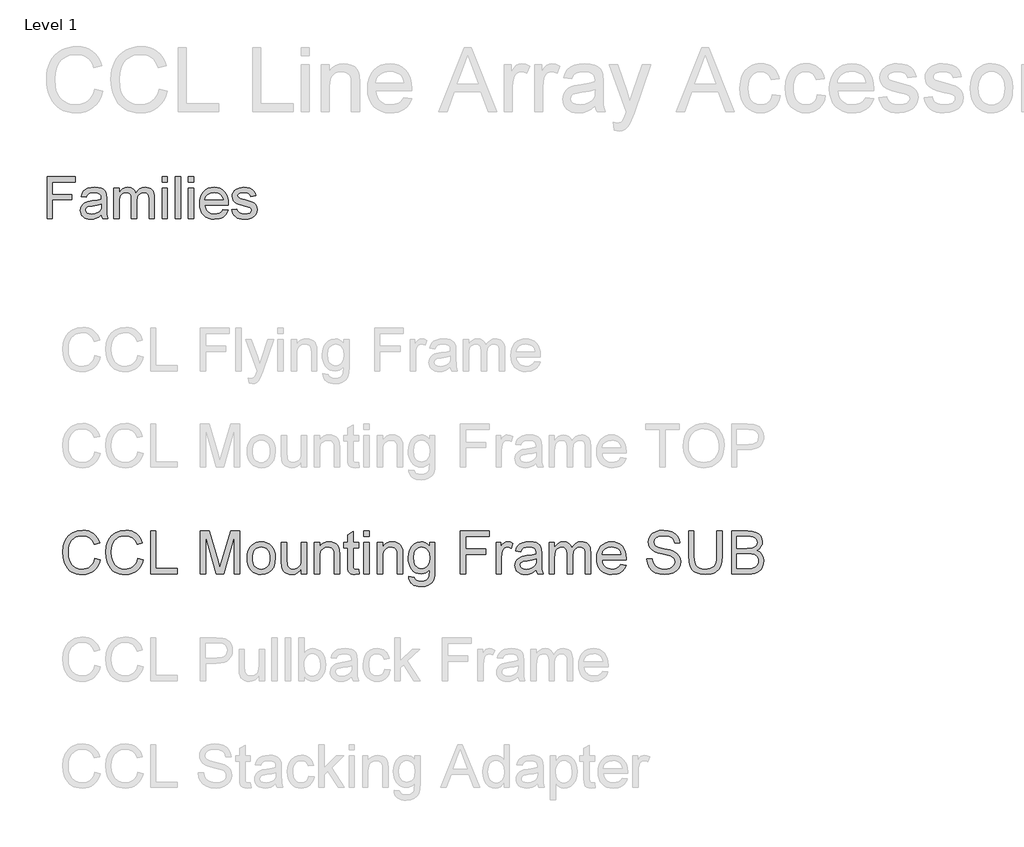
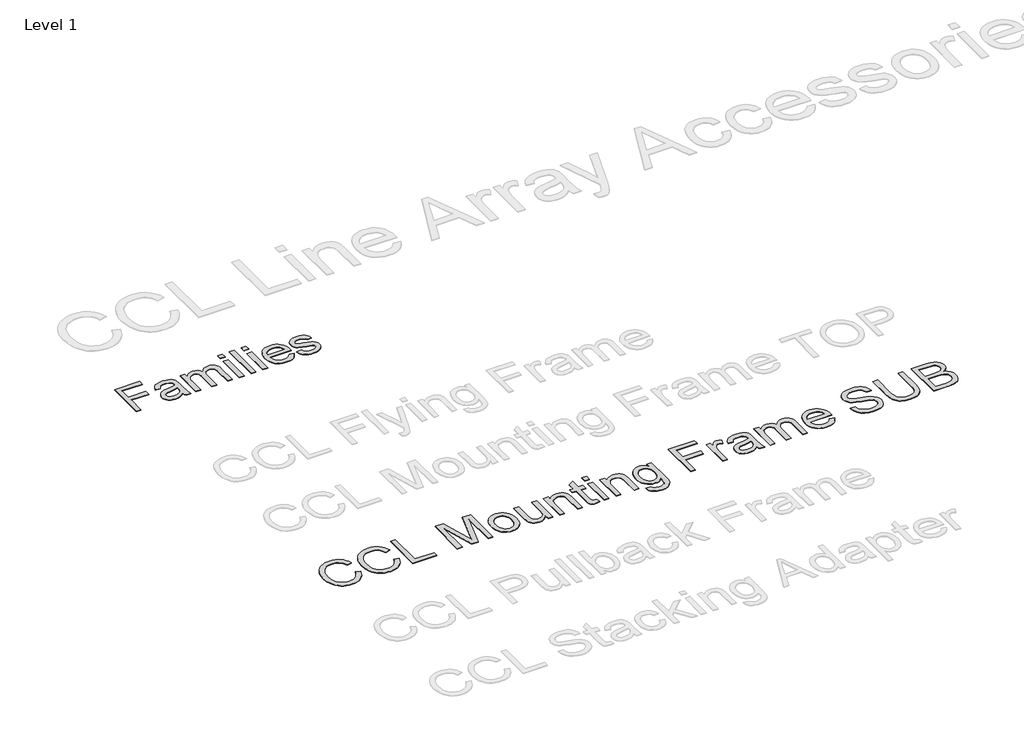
# One storey, part 4 of 31: 2 proxies.
"""IFC4 building model written with IfcOpenShell, lengths in millimetres."""

from ifc_helpers import new_model, si_unit, origin, origin_with_axes, place, context, project, spatial, polyline, outline, extrude, element, save

model = new_model("IFC4")

# Units and contexts
model_context = context("Model", 3, world=origin())
ifc_project = project(units=[si_unit("LENGTHUNIT", "METRE", prefix="MILLI")], contexts=[model_context])

# Site, building, storey
site = spatial("IfcSite", under=ifc_project)
building = spatial("IfcBuilding", under=site)
storey = spatial("IfcBuildingStorey", under=building, Name="Level 1", Elevation=0.0)

# Proxies
placement = place(None, origin())
element("IfcBuildingElementProxy", 1, Name="400mm Arial", ObjectType="400mm Arial", at=placement, inside=storey, context=model_context, shape_type="SweptSolid", body=[
    extrude(outline(polyline([(-21056.720891, -13671.3757633), (-21056.720891, -13279.6181875), (-20793.5087698, -13279.6181875), (-20793.5087698, -13328.5878845), (-21007.7511941, -13328.5878845), (-21007.7511941, -13444.8909148), (-20824.1148304, -13444.8909148), (-20824.1148304, -13493.8606118), (-21007.7511941, -13493.8606118), (-21007.7511941, -13671.3757633), (-21056.720891, -13671.3757633)])), origin_with_axes(), (0.0, 0.0, 1.0), 5.0),
    extrude(outline(polyline([(-20548.660285, -13634.6484906), (-20572.0571836, -13654.7098068), (-20596.1475009, -13667.8369375), (-20621.4811893, -13675.0819659), (-20648.6082016, -13677.4969754), (-20670.4120309, -13676.0443831), (-20689.5318522, -13671.6866061), (-20705.9676654, -13664.4236444), (-20719.7194706, -13654.2554981), (-20730.5780466, -13641.8277638), (-20738.3341723, -13627.7860379), (-20742.9878477, -13612.1303206), (-20744.5390729, -13594.8606118), (-20742.1957963, -13574.5601856), (-20735.1659668, -13556.1248163), (-20724.3223352, -13540.3435663), (-20710.5376524, -13528.0054981), (-20676.2493001, -13511.9373163), (-20633.879035, -13504.572733), (-20583.8094327, -13496.8255739), (-20548.9472168, -13487.7393996), (-20548.660285, -13476.8359906), (-20552.0317338, -13454.9813504), (-20562.1460804, -13440.6825815), (-20584.7658721, -13430.0661042), (-20616.2805501, -13426.5272784), (-20645.4519516, -13428.8825104), (-20665.8241107, -13435.9482065), (-20679.7163929, -13449.0155597), (-20689.4481638, -13469.3757633), (-20738.4178607, -13463.2545512), (-20729.9175056, -13436.4742481), (-20717.2327282, -13415.4325815), (-20699.1799346, -13399.3404887), (-20674.5755312, -13387.4089072), (-20644.4835568, -13380.0204129), (-20609.9680501, -13377.5575815), (-20576.8632916, -13379.7334811), (-20550.6209857, -13386.26118), (-20530.8346458, -13396.0766392), (-20517.097785, -13408.1158201), (-20507.9876997, -13423.0004082), (-20502.0816865, -13441.352089), (-20499.690588, -13484.2005739), (-20499.690588, -13545.1257633), (-20497.2038456, -13630.2010474), (-20487.4481638, -13671.3757633), (-20536.4178607, -13671.3757633), (-20544.2606638, -13654.3511421), (-20548.660285, -13634.6484906)]), holes=[polyline([(-20548.660285, -13536.7090966), (-20581.5618001, -13544.8627425), (-20627.6621789, -13551.7251951), (-20669.7933342, -13559.6636421), (-20680.7565208, -13565.0914356), (-20688.8743001, -13572.5755739), (-20693.8956069, -13581.5421932), (-20695.5693759, -13591.41743), (-20691.9229507, -13605.9792197), (-20680.9836751, -13617.9108012), (-20662.990659, -13625.8731591), (-20638.1830122, -13628.5272784), (-20611.8809289, -13625.5981828), (-20588.6394516, -13616.8108959), (-20569.7975956, -13603.8630976), (-20556.6943759, -13588.4524678), (-20550.8840066, -13572.5755739), (-20548.9472168, -13550.5774678), (-20548.660285, -13536.7090966)])]), origin_with_axes(), (0.0, 0.0, 1.0), 5.0),
    extrude(outline(polyline([(-20432.3572547, -13671.3757633), (-20432.3572547, -13383.6787936), (-20383.3875577, -13383.6787936), (-20383.3875577, -13431.0225436), (-20368.658391, -13409.2755029), (-20349.720891, -13392.2389262), (-20327.2206543, -13381.2279176), (-20301.8032774, -13377.5575815), (-20274.5686657, -13381.2996506), (-20252.7379365, -13392.525858), (-20236.4306448, -13410.4949631), (-20225.7663456, -13434.4657254), (-20207.9167954, -13409.5684124), (-20187.5565918, -13391.7846175), (-20164.6857348, -13381.1143405), (-20139.3042244, -13377.5575815), (-20119.7002057, -13379.0370737), (-20102.4932632, -13383.4755502), (-20087.683397, -13390.8730112), (-20075.2706069, -13401.2294565), (-20065.4581365, -13414.6644411), (-20058.4492291, -13431.2975199), (-20054.2438846, -13451.128693), (-20052.8421032, -13474.1579603), (-20052.8421032, -13671.3757633), (-20101.8118001, -13671.3757633), (-20101.8118001, -13495.1996269), (-20106.3548872, -13454.3118428), (-20112.7391202, -13443.0378135), (-20122.8056448, -13434.1787936), (-20135.7534431, -13428.4401572), (-20150.7814971, -13426.5272784), (-20177.3107348, -13431.4290303), (-20198.9382206, -13446.134286), (-20207.3279874, -13457.4142931), (-20213.320678, -13471.6473068), (-20218.1148304, -13508.9723542), (-20218.1148304, -13671.3757633), (-20267.0845274, -13671.3757633), (-20267.0845274, -13489.7479224), (-20269.9179791, -13462.0590019), (-20278.4183342, -13442.3085284), (-20293.3746552, -13430.4725909), (-20315.5760047, -13426.5272784), (-20334.4417717, -13429.1574868), (-20351.8250577, -13437.0481118), (-20366.1716486, -13450.0078656), (-20375.9273304, -13467.8454603), (-20381.5225009, -13492.5933296), (-20383.3875577, -13526.2839072), (-20383.3875577, -13671.3757633), (-20432.3572547, -13671.3757633)])), origin_with_axes(), (0.0, 0.0, 1.0), 5.0),
    extrude(outline(polyline([(-19979.3875577, -13328.5878845), (-19979.3875577, -13279.6181875), (-19930.4178607, -13279.6181875), (-19930.4178607, -13328.5878845), (-19979.3875577, -13328.5878845)])), origin_with_axes(), (0.0, 0.0, 1.0), 5.0),
    extrude(outline(polyline([(-19979.3875577, -13671.3757633), (-19979.3875577, -13383.6787936), (-19930.4178607, -13383.6787936), (-19930.4178607, -13671.3757633), (-19979.3875577, -13671.3757633)])), origin_with_axes(), (0.0, 0.0, 1.0), 5.0),
    extrude(outline(polyline([(-19856.9633153, -13671.3757633), (-19856.9633153, -13279.6181875), (-19807.9936183, -13279.6181875), (-19807.9936183, -13671.3757633), (-19856.9633153, -13671.3757633)])), origin_with_axes(), (0.0, 0.0, 1.0), 5.0),
    extrude(outline(polyline([(-19734.5390729, -13328.5878845), (-19734.5390729, -13279.6181875), (-19685.5693759, -13279.6181875), (-19685.5693759, -13328.5878845), (-19734.5390729, -13328.5878845)])), origin_with_axes(), (0.0, 0.0, 1.0), 5.0),
    extrude(outline(polyline([(-19734.5390729, -13671.3757633), (-19734.5390729, -13383.6787936), (-19685.5693759, -13383.6787936), (-19685.5693759, -13671.3757633), (-19734.5390729, -13671.3757633)])), origin_with_axes(), (0.0, 0.0, 1.0), 5.0),
    extrude(outline(polyline([(-19410.6886941, -13585.6787936), (-19362.6754365, -13591.8000057), (-19370.0370309, -13611.0304153), (-19379.975034, -13627.9773258), (-19392.4894457, -13642.6407372), (-19407.580266, -13655.0206496), (-19425.0920736, -13664.8540422), (-19444.8694469, -13671.877894), (-19491.220891, -13677.4969754), (-19521.605775, -13675.0729993), (-19548.6789876, -13667.801071), (-19572.4405288, -13655.6811906), (-19592.8903986, -13638.713358), (-19609.3351784, -13617.3698151), (-19621.0814497, -13592.122804), (-19628.1292125, -13562.9723246), (-19630.4784668, -13529.9183769), (-19628.1053015, -13495.7436018), (-19620.9858058, -13465.6217387), (-19609.1199796, -13439.5527874), (-19592.5078229, -13417.5367481), (-19572.1117528, -13400.0458627), (-19548.8941865, -13387.5523731), (-19522.855124, -13380.0562794), (-19493.9945653, -13377.5575815), (-19466.0635461, -13380.0503016), (-19440.8045795, -13387.5284621), (-19418.2176654, -13399.992063), (-19398.3028039, -13417.4411042), (-19382.0463231, -13439.4093215), (-19370.4345511, -13465.4304508), (-19363.4674879, -13495.504492), (-19361.1451335, -13529.6314451), (-19361.4320653, -13542.8303087), (-19581.5087698, -13542.8303087), (-19578.6723292, -13562.3715611), (-19573.0323257, -13579.4858485), (-19564.5887592, -13594.173171), (-19553.3416297, -13606.4335284), (-19524.9234242, -13623.0038409), (-19490.2644516, -13628.5272784), (-19464.2014782, -13625.9688031), (-19442.2511941, -13618.2933769), (-19424.4135994, -13605.0227803), (-19410.6886941, -13585.6787936)]), holes=[polyline([(-19581.5087698, -13493.8606118), (-19410.1148304, -13493.8606118), (-19416.7381732, -13467.9889262), (-19429.721838, -13449.4818239), (-19443.076123, -13439.4392103), (-19458.2715539, -13432.2659148), (-19494.1858532, -13426.5272784), (-19527.1949677, -13431.106232), (-19554.4893569, -13444.8430928), (-19573.4627234, -13466.2553798), (-19581.5087698, -13493.8606118)])]), origin_with_axes(), (0.0, 0.0, 1.0), 5.0),
    extrude(outline(polyline([(-19330.5390729, -13585.6787936), (-19281.5693759, -13579.5575815), (-19273.8461278, -13600.5036042), (-19258.9017622, -13615.9022784), (-19236.6406354, -13625.3710284), (-19206.9671032, -13628.5272784), (-19177.6522357, -13625.6340493), (-19157.0409668, -13616.9543618), (-19144.8463645, -13604.3771837), (-19140.7814971, -13589.791483), (-19144.8702755, -13577.3099489), (-19157.1366107, -13567.7933769), (-19207.5409668, -13553.8293618), (-19281.2824441, -13529.870555), (-19299.9449677, -13517.8313741), (-19313.4666297, -13501.8947027), (-19321.680053, -13483.0767576), (-19324.4178607, -13462.3937557), (-19322.2180501, -13443.4203892), (-19315.6186183, -13425.9055928), (-19305.2173399, -13410.5427851), (-19291.6119895, -13398.0253845), (-19260.4798872, -13383.5353277), (-19218.3487319, -13377.5575815), (-19186.4753891, -13379.9606354), (-19158.7625577, -13387.1697974), (-19136.4775198, -13398.4796932), (-19120.8875577, -13413.1849489), (-19110.5580122, -13432.3735142), (-19104.0542244, -13457.133339), (-19153.0239213, -13463.2545512), (-19159.2049109, -13447.8439214), (-19171.4353797, -13436.2351383), (-19189.8348825, -13428.9542434), (-19214.5229744, -13426.5272784), (-19242.6422925, -13428.846644), (-19261.3885047, -13435.8047406), (-19271.933249, -13445.8473542), (-19275.4481638, -13457.4202709), (-19269.6138835, -13471.6712178), (-19251.345891, -13482.478983), (-19209.1669138, -13492.9041724), (-19137.2904933, -13515.9543618), (-19118.3051713, -13526.9773258), (-19103.9107585, -13542.0651572), (-19094.8365397, -13561.2656781), (-19091.8118001, -13584.6267103), (-19095.3625814, -13608.776805), (-19106.0149251, -13631.4922406), (-19123.3623446, -13650.9916487), (-19146.9983532, -13665.493661), (-19175.5480691, -13674.4961468), (-19207.6366107, -13677.4969754), (-19233.9924938, -13676.0503608), (-19257.0127944, -13671.7105171), (-19276.6975127, -13664.4774442), (-19293.0466486, -13654.3511421), (-19306.4009336, -13641.3794328), (-19317.1010994, -13625.6101383), (-19325.1471458, -13607.0432585), (-19330.5390729, -13585.6787936)])), origin_with_axes(), (0.0, 0.0, 1.0), 5.0),
])
element("IfcBuildingElementProxy", 2, Name="400mm Arial", ObjectType="400mm Arial", at=placement, inside=storey, context=model_context, shape_type="SweptSolid", body=[
    extrude(outline(polyline([(-20609.9461568, -16854.6815806), (-20559.7180017, -16867.6310268), (-20569.656947, -16898.8672739), (-20582.8945674, -16926.1610523), (-20599.4308631, -16949.5123619), (-20619.265834, -16968.9212029), (-20641.9518904, -16984.1791086), (-20667.0414425, -16995.0776127), (-20694.5344902, -17001.6167152), (-20724.4310337, -17003.796416), (-20755.0602755, -17002.1470784), (-20782.691279, -16997.1990655), (-20807.3240443, -16988.9523775), (-20828.9585713, -16977.4070142), (-20847.8922313, -16962.734654), (-20864.4223956, -16945.106975), (-20878.5490642, -16924.5239774), (-20890.2722371, -16900.9856611), (-20906.0543747, -16849.1142998), (-20911.3150873, -16793.5641185), (-20905.3676617, -16734.9727794), (-20897.9333797, -16708.6753481), (-20887.5253849, -16684.3767423), (-20874.3766693, -16662.4785666), (-20858.7202247, -16643.3824253), (-20840.5560512, -16627.0883186), (-20819.8841487, -16613.5962464), (-20797.4065588, -16603.0165734), (-20773.8253229, -16595.4596641), (-20723.3519132, -16589.4141366), (-20694.623395, -16591.3700426), (-20668.2799785, -16597.2377604), (-20644.3216636, -16607.0172901), (-20622.7484502, -16620.7086317), (-20603.9159578, -16637.9500345), (-20588.1798054, -16658.379748), (-20575.5399932, -16681.9977721), (-20565.9965211, -16708.8041068), (-20616.2246762, -16720.7725344), (-20633.6377573, -16684.1437504), (-20657.4274596, -16659.0174101), (-20687.8880888, -16644.4860713), (-20725.3139505, -16639.6422917), (-20768.4542458, -16645.0133688), (-20787.1365198, -16651.7272152), (-20803.8935447, -16661.1266002), (-20830.7857185, -16686.2897287), (-20848.2846387, -16718.8104971), (-20857.8863588, -16755.5741711), (-20861.0869322, -16793.4660166), (-20857.2977476, -16839.8681989), (-20845.930194, -16879.9918619), (-20826.5550756, -16912.3041638), (-20798.7431967, -16935.272263), (-20765.4008252, -16948.9942614), (-20729.4342288, -16953.5682609), (-20707.5973667, -16952.0108938), (-20687.5079441, -16947.3387925), (-20669.165961, -16939.5519569), (-20652.5714173, -16928.6503871), (-20638.1167206, -16914.683134), (-20626.1942783, -16897.6992486), (-20616.8040903, -16877.6987308), (-20609.9461568, -16854.6815806)])), origin_with_axes(), (0.0, 0.0, 1.0), 5.0),
    extrude(outline(polyline([(-20208.1209162, -16854.6815806), (-20157.8927611, -16867.6310268), (-20167.8317064, -16898.8672739), (-20181.0693268, -16926.1610523), (-20197.6056225, -16949.5123619), (-20217.4405934, -16968.9212029), (-20240.1266498, -16984.1791086), (-20265.2162019, -16995.0776127), (-20292.7092496, -17001.6167152), (-20322.6057931, -17003.796416), (-20353.2350349, -17002.1470784), (-20380.8660384, -16997.1990655), (-20405.4988037, -16988.9523775), (-20427.1333307, -16977.4070142), (-20446.0669907, -16962.734654), (-20462.597155, -16945.106975), (-20476.7238236, -16924.5239774), (-20488.4469965, -16900.9856611), (-20504.2291341, -16849.1142998), (-20509.4898467, -16793.5641185), (-20503.5424211, -16734.9727794), (-20496.1081391, -16708.6753481), (-20485.7001443, -16684.3767423), (-20472.5514287, -16662.4785666), (-20456.8949841, -16643.3824253), (-20438.7308106, -16627.0883186), (-20418.0589081, -16613.5962464), (-20395.5813182, -16603.0165734), (-20372.0000823, -16595.4596641), (-20321.5266726, -16589.4141366), (-20292.7981544, -16591.3700426), (-20266.4547379, -16597.2377604), (-20242.496423, -16607.0172901), (-20220.9232096, -16620.7086317), (-20202.0907172, -16637.9500345), (-20186.3545648, -16658.379748), (-20173.7147526, -16681.9977721), (-20164.1712805, -16708.8041068), (-20214.3994356, -16720.7725344), (-20231.8125167, -16684.1437504), (-20255.602219, -16659.0174101), (-20286.0628482, -16644.4860713), (-20323.4887099, -16639.6422917), (-20366.6290052, -16645.0133688), (-20385.3112792, -16651.7272152), (-20402.0683041, -16661.1266002), (-20428.9604779, -16686.2897287), (-20446.4593981, -16718.8104971), (-20456.0611182, -16755.5741711), (-20459.2616916, -16793.4660166), (-20455.472507, -16839.8681989), (-20444.1049534, -16879.9918619), (-20424.729835, -16912.3041638), (-20396.9179561, -16935.272263), (-20363.5755846, -16948.9942614), (-20327.6089882, -16953.5682609), (-20305.7721261, -16952.0108938), (-20285.6827035, -16947.3387925), (-20267.3407204, -16939.5519569), (-20250.7461767, -16928.6503871), (-20236.29148, -16914.683134), (-20224.3690377, -16897.6992486), (-20214.9788497, -16877.6987308), (-20208.1209162, -16854.6815806)])), origin_with_axes(), (0.0, 0.0, 1.0), 5.0),
    extrude(outline(polyline([(-20088.8290479, -16997.5178966), (-20088.8290479, -16595.692656), (-20038.6008928, -16595.692656), (-20038.6008928, -16947.2897415), (-19837.6882725, -16947.2897415), (-19837.6882725, -16997.5178966), (-20088.8290479, -16997.5178966)])), origin_with_axes(), (0.0, 0.0, 1.0), 5.0),
    extrude(outline(polyline([(-19624.2186135, -16997.5178966), (-19624.2186135, -16595.692656), (-19538.0851757, -16595.692656), (-19455.6796087, -16878.9127414), (-19439.0022916, -16938.0681662), (-19421.0496503, -16874.0076481), (-19340.2137132, -16595.692656), (-19253.7859698, -16595.692656), (-19253.7859698, -16997.5178966), (-19304.0141249, -16997.5178966), (-19304.0141249, -16645.9208111), (-19404.9609443, -16997.5178966), (-19472.945537, -16997.5178966), (-19573.9904584, -16645.9208111), (-19573.9904584, -16997.5178966), (-19624.2186135, -16997.5178966)])), origin_with_axes(), (0.0, 0.0, 1.0), 5.0),
    extrude(outline(polyline([(-19184.7222566, -16849.9726911), (-19182.0060612, -16811.7558831), (-19173.857475, -16778.8243132), (-19160.276498, -16751.1779813), (-19141.2631302, -16728.8168873), (-19122.1210037, -16714.5246718), (-19100.9923145, -16704.3159465), (-19077.8770624, -16698.1907112), (-19052.7752476, -16696.1489662), (-19025.0645363, -16698.6352353), (-19000.0087068, -16706.0940428), (-18977.607759, -16718.5253885), (-18957.8616929, -16735.9292726), (-18941.7453958, -16757.7170837), (-18930.233755, -16783.3002108), (-18923.3267706, -16812.6786538), (-18921.0244424, -16845.8524127), (-18925.0956698, -16896.5956026), (-18937.3093521, -16935.2232121), (-18957.3098699, -16964.1509996), (-18984.741604, -16985.7947237), (-19017.323686, -16999.2959929), (-19052.7752476, -17003.796416), (-19080.8906291, -17001.3193439), (-19106.1794506, -16993.8881276), (-19128.6417121, -16981.5027671), (-19148.2774136, -16964.1632624), (-19164.2220324, -16942.1639191), (-19175.6110458, -16915.7990427), (-19182.4444539, -16885.0686334), (-19184.7222566, -16849.9726911)]), holes=[polyline([(-19134.4941015, -16849.8745892), (-19133.0409676, -16874.2375743), (-19128.681566, -16895.3325411), (-19121.4158966, -16913.1594894), (-19111.2439594, -16927.7184194), (-19098.8708616, -16939.0277251), (-19085.0017104, -16947.1058005), (-19069.6365057, -16951.9526458), (-19052.7752476, -16953.5682609), (-19035.9998286, -16951.9434488), (-19020.6959376, -16947.0690123), (-19006.8635746, -16938.9449516), (-18994.5027396, -16927.5712666), (-18984.3308024, -16912.8682495), (-18977.065133, -16894.7561926), (-18972.7057314, -16873.2350959), (-18971.2525975, -16848.3049594), (-18972.7149284, -16824.7145264), (-18977.1019212, -16804.1713827), (-18984.4135759, -16786.6755281), (-18994.6498924, -16772.2269628), (-19007.0567127, -16760.9176571), (-19020.8798786, -16752.8395816), (-19036.1193903, -16747.9927363), (-19052.7752476, -16746.3771212), (-19069.6365057, -16747.986605), (-19085.0017104, -16752.8150561), (-19098.8708616, -16760.8624748), (-19111.2439594, -16772.1288609), (-19121.4158966, -16786.6448713), (-19128.681566, -16804.4411628), (-19133.0409676, -16825.5177354), (-19134.4941015, -16849.8745892)])]), origin_with_axes(), (0.0, 0.0, 1.0), 5.0),
    extrude(outline(polyline([(-18676.1621864, -16997.5178966), (-18676.1621864, -16946.7992322), (-18694.335557, -16971.7355001), (-18715.5010344, -16989.54712), (-18739.6586188, -17000.234092), (-18766.80831, -17003.796416), (-18791.2724627, -17001.2948184), (-18814.0443582, -16993.7900257), (-18833.1496965, -16982.5083112), (-18846.6141775, -16968.6759482), (-18855.6763373, -16951.8760037), (-18861.574712, -16931.6915449), (-18864.517768, -16884.995057), (-18864.517768, -16702.4274855), (-18814.2896129, -16702.4274855), (-18814.2896129, -16861.3525075), (-18811.2484551, -16912.5616812), (-18803.9276033, -16929.6436685), (-18791.3828273, -16942.6299029), (-18774.4479928, -16950.8336714), (-18753.9569657, -16953.5682609), (-18732.2887162, -16950.7723578), (-18712.0184182, -16942.3846483), (-18695.3043129, -16929.1776846), (-18684.3046412, -16911.9240191), (-18678.1978001, -16888.2937322), (-18676.1621864, -16855.9569049), (-18676.1621864, -16702.4274855), (-18625.9340313, -16702.4274855), (-18625.9340313, -16997.5178966), (-18676.1621864, -16997.5178966)])), origin_with_axes(), (0.0, 0.0, 1.0), 5.0),
    extrude(outline(polyline([(-18556.8703181, -16997.5178966), (-18556.8703181, -16702.4274855), (-18506.642163, -16702.4274855), (-18506.642163, -16743.630269), (-18489.1922937, -16722.857199), (-18468.2352827, -16708.0192919), (-18443.7711301, -16699.1165476), (-18415.7998357, -16696.1489662), (-18391.0413774, -16698.5401991), (-18368.3675838, -16705.713898), (-18349.4584492, -16716.7748834), (-18335.9939682, -16730.8279756), (-18326.858232, -16747.8363865), (-18320.9353319, -16767.7633279), (-18318.2865815, -16816.3237513), (-18318.2865815, -16997.5178966), (-18368.5147366, -16997.5178966), (-18368.5147366, -16823.09278), (-18369.9617391, -16797.1203111), (-18374.3027466, -16778.6526349), (-18382.3103114, -16765.4211459), (-18394.7569856, -16755.1572382), (-18410.7108014, -16748.5721505), (-18429.2397913, -16746.3771212), (-18458.6580881, -16751.30674), (-18483.7353775, -16766.0955962), (-18493.7570962, -16778.168257), (-18500.9154667, -16794.6677645), (-18505.2104889, -16815.5941186), (-18506.642163, -16840.9473195), (-18506.642163, -16997.5178966), (-18556.8703181, -16997.5178966)])), origin_with_axes(), (0.0, 0.0, 1.0), 5.0),
    extrude(outline(polyline([(-18142.4880388, -16955.6284001), (-18136.2095194, -16998.9894246), (-18173.7825338, -17003.796416), (-18197.8910672, -17001.7117514), (-18215.8682341, -16995.4577574), (-18228.5724256, -16985.8192492), (-18236.8620332, -16973.5810415), (-18241.42377, -16952.5627168), (-18242.9443489, -16916.5838577), (-18242.9443489, -16752.6556406), (-18280.6154652, -16752.6556406), (-18280.6154652, -16702.4274855), (-18242.9443489, -16702.4274855), (-18242.9443489, -16630.715022), (-18192.7161938, -16601.1863605), (-18192.7161938, -16702.4274855), (-18142.4880388, -16702.4274855), (-18142.4880388, -16752.6556406), (-18192.7161938, -16752.6556406), (-18192.7161938, -16915.1123297), (-18190.0674435, -16941.0112221), (-18181.4835302, -16950.1837466), (-18164.3647547, -16953.5682609), (-18142.4880388, -16955.6284001)])), origin_with_axes(), (0.0, 0.0, 1.0), 5.0),
    extrude(outline(polyline([(-18092.2598837, -16997.5178966), (-18092.2598837, -16702.4274855), (-18042.0317286, -16702.4274855), (-18042.0317286, -16997.5178966), (-18092.2598837, -16997.5178966)])), origin_with_axes(), (0.0, 0.0, 1.0), 5.0),
    extrude(outline(polyline([(-18092.2598837, -16645.9208111), (-18092.2598837, -16595.692656), (-18042.0317286, -16595.692656), (-18042.0317286, -16645.9208111), (-18092.2598837, -16645.9208111)])), origin_with_axes(), (0.0, 0.0, 1.0), 5.0),
    extrude(outline(polyline([(-17966.689496, -16997.5178966), (-17966.689496, -16702.4274855), (-17916.4613409, -16702.4274855), (-17916.4613409, -16743.630269), (-17899.0114716, -16722.857199), (-17878.0544606, -16708.0192919), (-17853.5903079, -16699.1165476), (-17825.6190136, -16696.1489662), (-17800.8605553, -16698.5401991), (-17778.1867617, -16705.713898), (-17759.2776271, -16716.7748834), (-17745.8131461, -16730.8279756), (-17736.6774099, -16747.8363865), (-17730.7545097, -16767.7633279), (-17728.1057594, -16816.3237513), (-17728.1057594, -16997.5178966), (-17778.3339145, -16997.5178966), (-17778.3339145, -16823.09278), (-17779.780917, -16797.1203111), (-17784.1219245, -16778.6526349), (-17792.1294893, -16765.4211459), (-17804.5761634, -16755.1572382), (-17820.5299793, -16748.5721505), (-17839.0589691, -16746.3771212), (-17868.477266, -16751.30674), (-17893.5545553, -16766.0955962), (-17903.576274, -16778.168257), (-17910.7346445, -16794.6677645), (-17915.0296668, -16815.5941186), (-17916.4613409, -16840.9473195), (-17916.4613409, -16997.5178966), (-17966.689496, -16997.5178966)])), origin_with_axes(), (0.0, 0.0, 1.0), 5.0),
    extrude(outline(polyline([(-17671.5990849, -17022.6319741), (-17621.3709299, -17028.9104935), (-17615.8281745, -17044.606792), (-17605.0860202, -17055.3979972), (-17583.9695937, -17063.7857067), (-17556.3293931, -17066.5816098), (-17526.8497826, -17063.4178247), (-17504.9240156, -17053.9264692), (-17489.7182265, -17038.7206801), (-17480.3985493, -17018.4135939), (-17476.964984, -16959.8467803), (-17493.6790893, -16976.3278937), (-17512.3307065, -16988.1001175), (-17532.9198355, -16995.1634518), (-17555.4464763, -16997.5178966), (-17582.9855093, -16994.7771757), (-17607.2319985, -16986.5550132), (-17628.1859438, -16972.8514088), (-17645.8473453, -16953.6663628), (-17659.8605836, -16930.6492126), (-17669.8700395, -16905.4492959), (-17675.8757131, -16878.0666128), (-17677.8776043, -16848.5011631), (-17674.2846235, -16807.9483045), (-17663.505681, -16770.6573329), (-17645.9209217, -16739.0562695), (-17621.9104901, -16715.5731355), (-17592.2959895, -16701.0050085), (-17557.8990229, -16696.1489662), (-17534.4097576, -16698.8958184), (-17513.0909959, -16707.1363751), (-17493.9427381, -16720.8706362), (-17476.964984, -16740.0986019), (-17476.964984, -16702.4274855), (-17426.7368289, -16702.4274855), (-17426.7368289, -16957.1980299), (-17430.1703942, -17016.022361), (-17440.4710901, -17054.7603351), (-17458.215265, -17080.4507611), (-17483.9792674, -17100.1324478), (-17517.1990115, -17112.6404356), (-17557.3104118, -17116.8097649), (-17581.9186516, -17115.3413026), (-17604.0436879, -17110.9359157), (-17623.6855207, -17103.5936042), (-17640.8441501, -17093.3143682), (-17654.7041043, -17080.0859447), (-17664.4499115, -17063.8960713), (-17670.0815717, -17044.7447477), (-17671.5990849, -17022.6319741)]), holes=[polyline([(-17627.6494492, -16845.0675978), (-17622.2906348, -16891.1386863), (-17615.5921168, -16908.7755623), (-17606.2141916, -16922.8133261), (-17594.8129155, -16933.5217579), (-17582.0443446, -16941.1706377), (-17567.9084789, -16945.7599656), (-17552.4053185, -16947.2897415), (-17537.0554422, -16945.7691626), (-17522.9870216, -16941.2074259), (-17510.2000566, -16933.6045313), (-17498.6945472, -16922.9604789), (-17489.1878633, -16909.0606709), (-17482.3973748, -16891.6905093), (-17476.964984, -16846.5391258), (-17482.5567903, -16802.9941603), (-17489.5465482, -16785.7926113), (-17499.3322093, -16771.6383516), (-17511.0860391, -16760.5865633), (-17523.980303, -16752.6924288), (-17538.0150011, -16747.9559481), (-17553.1901334, -16746.3771212), (-17568.110814, -16747.9314227), (-17581.8726663, -16752.594327), (-17605.9198861, -16771.2459441), (-17615.4265699, -16785.185606), (-17622.2170584, -16802.135769), (-17627.6494492, -16845.0675978)])]), origin_with_axes(), (0.0, 0.0, 1.0), 5.0),
    extrude(outline(polyline([(-17188.1530923, -16997.5178966), (-17188.1530923, -16595.692656), (-16918.1767588, -16595.692656), (-16918.1767588, -16645.9208111), (-17137.9249373, -16645.9208111), (-17137.9249373, -16765.2126794), (-16949.5693557, -16765.2126794), (-16949.5693557, -16815.4408345), (-17137.9249373, -16815.4408345), (-17137.9249373, -16997.5178966), (-17188.1530923, -16997.5178966)])), origin_with_axes(), (0.0, 0.0, 1.0), 5.0),
    extrude(outline(polyline([(-16855.391565, -16997.5178966), (-16855.391565, -16702.4274855), (-16811.4419293, -16702.4274855), (-16811.4419293, -16746.0828156), (-16795.2060705, -16720.7725344), (-16780.2455361, -16705.8610508), (-16765.2359507, -16698.5769873), (-16748.8529392, -16696.1489662), (-16723.8369635, -16700.0239898), (-16698.4285804, -16711.6490609), (-16715.2039993, -16756.6778171), (-16732.8623351, -16748.9522952), (-16750.5206709, -16746.3771212), (-16765.5179935, -16748.8541933), (-16778.9211609, -16756.2854096), (-16789.7491543, -16768.1066844), (-16797.0209551, -16783.7539319), (-16803.1277962, -16811.8110654), (-16805.1634099, -16842.4188474), (-16805.1634099, -16997.5178966), (-16855.391565, -16997.5178966)])), origin_with_axes(), (0.0, 0.0, 1.0), 5.0),
    extrude(outline(polyline([(-16478.6804019, -16959.8467803), (-16502.6785707, -16980.4236466), (-16527.3879781, -16993.8881276), (-16553.3727097, -17001.3193439), (-16581.1968512, -17003.796416), (-16603.5610108, -17002.3064939), (-16623.1721869, -16997.8367277), (-16640.0303793, -16990.3871173), (-16654.1355881, -16979.9576627), (-16665.2732155, -16967.2105516), (-16673.2286637, -16952.8079715), (-16678.0019326, -16936.7499224), (-16679.5930222, -16919.0364043), (-16677.1895265, -16898.2142834), (-16669.9790394, -16879.3051488), (-16658.8567404, -16863.118341), (-16644.7178091, -16850.4632004), (-16628.1018056, -16840.8982685), (-16609.5482903, -16833.982087), (-16566.089164, -16826.4282434), (-16514.7328374, -16818.4819923), (-16478.9747075, -16809.1623151), (-16478.6804019, -16797.9787024), (-16482.1384927, -16775.5624262), (-16492.5127649, -16760.8961973), (-16515.7138561, -16750.0068903), (-16548.0384207, -16746.3771212), (-16577.9594897, -16748.7928797), (-16598.855187, -16756.040155), (-16613.1044829, -16769.4433223), (-16623.0863477, -16790.3267569), (-16673.3145028, -16784.0482375), (-16664.5956995, -16756.5797152), (-16651.5849396, -16734.9973049), (-16633.0682125, -16718.491666), (-16607.8315077, -16706.2534583), (-16576.9662083, -16698.6750892), (-16541.5636976, -16696.1489662), (-16507.6081895, -16698.3807836), (-16480.6914901, -16705.0762359), (-16460.3966667, -16715.1439398), (-16446.3067863, -16727.4925121), (-16436.9625836, -16742.7596149), (-16430.9047935, -16761.5829104), (-16428.4522468, -16805.5325461), (-16428.4522468, -16868.0234343), (-16425.9015983, -16955.2850436), (-16415.8952081, -16997.5178966), (-16466.1233631, -16997.5178966), (-16474.1677161, -16980.0557646), (-16478.6804019, -16959.8467803)]), holes=[polyline([(-16478.6804019, -16859.3904702), (-16512.4274436, -16867.7536542), (-16559.7125427, -16874.792463), (-16602.9264144, -16882.9349178), (-16614.1713407, -16888.5021987), (-16622.4977365, -16896.1786697), (-16627.6480845, -16905.3757195), (-16629.3648671, -16915.5047372), (-16625.6247335, -16930.4407462), (-16614.4043327, -16942.6789539), (-16595.9489192, -16950.8459342), (-16570.5037479, -16953.5682609), (-16543.5257349, -16950.5638913), (-16519.6869816, -16941.5507824), (-16500.3609141, -16928.2702424), (-16486.9209586, -16912.4635793), (-16480.9612703, -16896.1786697), (-16478.9747075, -16873.6152406), (-16478.6804019, -16859.3904702)])]), origin_with_axes(), (0.0, 0.0, 1.0), 5.0),
    extrude(outline(polyline([(-16359.3885336, -16997.5178966), (-16359.3885336, -16702.4274855), (-16309.1603785, -16702.4274855), (-16309.1603785, -16750.9879089), (-16294.0526913, -16728.6819973), (-16274.6285219, -16711.2076025), (-16251.5500581, -16699.9136252), (-16225.4794874, -16696.1489662), (-16197.5449812, -16699.9872016), (-16175.1532304, -16711.5019081), (-16158.4268624, -16729.9327961), (-16147.4885044, -16754.5195761), (-16129.1802437, -16728.9824342), (-16108.2968092, -16710.7416186), (-16084.8382006, -16699.7971293), (-16058.8044181, -16696.1489662), (-16038.6966014, -16697.6664794), (-16021.0474626, -16702.2190191), (-16005.8570019, -16709.8065852), (-15993.1252192, -16720.4291778), (-15983.0605809, -16734.2094242), (-15975.8715536, -16751.2699518), (-15971.5581372, -16771.6107604), (-15970.1203318, -16795.2318502), (-15970.1203318, -16997.5178966), (-16020.3484868, -16997.5178966), (-16020.3484868, -16816.8142606), (-16021.5134465, -16791.7614967), (-16025.0083254, -16774.8757131), (-16031.556625, -16763.3119557), (-16041.8818463, -16754.2252705), (-16055.1623863, -16748.3391585), (-16070.5766419, -16746.3771212), (-16097.7876468, -16751.4048418), (-16119.9709311, -16766.4880036), (-16128.5763041, -16778.0578924), (-16134.7229991, -16792.6566762), (-16139.6403551, -16830.9409292), (-16139.6403551, -16997.5178966), (-16189.8685102, -16997.5178966), (-16189.8685102, -16811.2224543), (-16192.774778, -16782.8219642), (-16201.4935813, -16762.563929), (-16216.8342605, -16750.4238232), (-16239.606156, -16746.3771212), (-16258.9567489, -16749.0749225), (-16276.7867629, -16757.1683264), (-16291.5020428, -16770.4611292), (-16301.508433, -16788.7571271), (-16307.2473921, -16814.1409847), (-16309.1603785, -16848.6973668), (-16309.1603785, -16997.5178966), (-16359.3885336, -16997.5178966)])), origin_with_axes(), (0.0, 0.0, 1.0), 5.0),
    extrude(outline(polyline([(-15688.1755707, -16909.6186252), (-15638.9284342, -16915.8971446), (-15646.4792122, -16935.6217509), (-15656.6726091, -16953.0041752), (-15669.5086251, -16968.0444174), (-15684.98726, -16980.7424776), (-15702.9490985, -16990.8285757), (-15723.2347248, -16998.0329314), (-15770.7773413, -17003.796416), (-15801.9430777, -17001.3101468), (-15829.7120369, -16993.8513394), (-15854.0842191, -16981.4199936), (-15875.0596242, -16964.0161096), (-15891.9270137, -16942.1240652), (-15903.975149, -16916.2282384), (-15911.2040302, -16886.3286292), (-15913.6136573, -16852.4252377), (-15911.1795048, -16817.3722149), (-15903.8770472, -16786.4762587), (-15891.7062845, -16759.737369), (-15874.6672168, -16737.1555459), (-15853.746994, -16719.2151673), (-15829.9327661, -16706.4006111), (-15803.2245333, -16698.7118774), (-15773.6222954, -16696.1489662), (-15744.973485, -16698.705746), (-15719.0653955, -16706.3760856), (-15695.8980269, -16719.159985), (-15675.4713791, -16737.057444), (-15658.7971277, -16759.5902162), (-15646.8869481, -16786.280055), (-15639.7408403, -16817.1269603), (-15637.3588044, -16852.1309321), (-15637.65311, -16865.6689895), (-15863.3855022, -16865.6689895), (-15860.4761688, -16885.7124269), (-15854.6912244, -16903.2665294), (-15846.0306691, -16918.3312971), (-15834.4945029, -16930.90673), (-15820.7203878, -16940.8211498), (-15805.3459861, -16947.9028782), (-15769.7963227, -16953.5682609), (-15743.0635643, -16950.944036), (-15720.5491862, -16943.0713613), (-15702.2531883, -16929.4597275), (-15688.1755707, -16909.6186252)]), holes=[polyline([(-15863.3855022, -16815.4408345), (-15687.5869595, -16815.4408345), (-15694.3805136, -16788.9042799), (-15707.6978419, -16769.9215689), (-15721.3953148, -16759.6208731), (-15736.9812487, -16752.2632332), (-15754.4556435, -16747.8486492), (-15773.8184991, -16746.3771212), (-15807.6759054, -16751.073748), (-15835.6717253, -16765.1636285), (-15855.1326828, -16787.1261836), (-15863.3855022, -16815.4408345)])]), origin_with_axes(), (0.0, 0.0, 1.0), 5.0),
    extrude(outline(polyline([(-15442.7247035, -16859.3904702), (-15392.4965484, -16859.3904702), (-15386.7330638, -16887.2636627), (-15376.3097406, -16909.6676762), (-15360.0493564, -16927.4486393), (-15336.7746889, -16941.4526805), (-15308.3251479, -16950.5393658), (-15276.5401435, -16953.5682609), (-15248.5565864, -16951.2751298), (-15224.0556455, -16944.3957365), (-15204.2022805, -16933.5064294), (-15190.1614511, -16919.1835571), (-15181.8105298, -16902.7392319), (-15179.0268893, -16885.4855663), (-15181.111554, -16868.6733592), (-15187.3655479, -16854.1420204), (-15200.0697395, -16841.7443971), (-15221.504997, -16831.3333367), (-15294.6399377, -16812.154422), (-15342.6485381, -16799.4624931), (-15373.3666847, -16787.383701), (-15398.3703976, -16770.4856547), (-15416.090047, -16750.0068903), (-15426.6482603, -16726.3888662), (-15430.1676647, -16700.0730408), (-15425.8143944, -16670.6547439), (-15412.7545836, -16643.2230098), (-15391.3315888, -16619.9728677), (-15361.8887664, -16603.0993468), (-15326.5475694, -16592.8354392), (-15287.4294506, -16589.4141366), (-15245.0494447, -16592.9948547), (-15207.9669396, -16603.737009), (-15177.5063104, -16621.4198702), (-15154.9919323, -16645.8227092), (-15140.7426364, -16675.4249471), (-15135.0772536, -16708.7060049), (-15185.3054087, -16708.7060049), (-15194.5269841, -16678.7358851), (-15202.8901681, -16666.8778221), (-15213.7549497, -16657.1044237), (-15243.798646, -16644.0078247), (-15285.4674133, -16639.6422917), (-15328.1171993, -16643.9587738), (-15344.420503, -16649.3543764), (-15357.3760806, -16656.90822), (-15374.2986524, -16675.9645074), (-15379.9395096, -16698.6015128), (-15375.9418586, -16717.9030548), (-15363.9489056, -16733.427675), (-15335.5974665, -16747.309089), (-15281.9357461, -16761.4848085), (-15226.5572431, -16774.9492895), (-15193.0554561, -16786.6969879), (-15164.4219741, -16804.9194094), (-15144.4459818, -16827.409262), (-15132.7105461, -16853.9212912), (-15128.7987343, -16884.2102421), (-15133.2991573, -16915.1736434), (-15146.8004266, -16944.2976346), (-15168.7507189, -16969.3626612), (-15198.5982115, -16988.1491685), (-15234.4912315, -16999.8846041), (-15274.5781062, -17003.796416), (-15323.7884544, -16999.5780358), (-15364.2922621, -16986.9228951), (-15396.5555131, -16965.7819432), (-15421.0441912, -16936.1061289), (-15436.7650152, -16899.9555915), (-15442.7247035, -16859.3904702)])), origin_with_axes(), (0.0, 0.0, 1.0), 5.0),
    extrude(outline(polyline([(-14789.7586875, -16595.692656), (-14739.5305324, -16595.692656), (-14739.5305324, -16827.5073639), (-14742.9395723, -16881.7944837), (-14753.1666917, -16923.598141), (-14761.3520661, -16940.5513697), (-14772.27203, -16955.8491293), (-14802.3157263, -16981.4782416), (-14821.4578528, -16991.2424429), (-14843.3713569, -16998.2168724), (-14895.5124984, -17003.796416), (-14946.5132057, -16998.9403737), (-14987.2867935, -16984.3722466), (-15003.8414832, -16973.5718444), (-15017.8455245, -16960.594807), (-15029.2989173, -16945.4411345), (-15038.2016616, -16928.1108269), (-15049.6427916, -16884.5413359), (-15053.4565017, -16827.5073639), (-15053.4565017, -16595.692656), (-15003.2283466, -16595.692656), (-15003.2283466, -16825.7415303), (-15000.7512745, -16870.8806511), (-14993.3200582, -16902.3100363), (-14979.8555771, -16924.0763876), (-14959.2787109, -16940.2264072), (-14932.4478507, -16950.2327975), (-14900.2213879, -16953.5682609), (-14872.5382678, -16951.9189233), (-14849.1348415, -16946.9709105), (-14830.0111091, -16938.7242224), (-14815.1670706, -16927.1788591), (-14804.050903, -16910.9430004), (-14796.1107833, -16888.624826), (-14791.3467115, -16860.224336), (-14789.7586875, -16825.7415303), (-14789.7586875, -16595.692656)])), origin_with_axes(), (0.0, 0.0, 1.0), 5.0),
    extrude(outline(polyline([(-14651.6312611, -16997.5178966), (-14651.6312611, -16595.692656), (-14498.2980455, -16595.692656), (-14456.1265061, -16598.6479747), (-14423.2010675, -16607.5139308), (-14397.9643626, -16622.5112535), (-14378.8590244, -16643.8606719), (-14366.8292831, -16668.9747494), (-14362.8193694, -16695.2660494), (-14366.191621, -16719.4604219), (-14376.3083759, -16742.207792), (-14393.2432104, -16762.1102079), (-14417.0697009, -16777.7697182), (-14388.6078972, -16792.6321508), (-14367.5773098, -16815.2446307), (-14354.5910754, -16844.1111046), (-14350.2623306, -16877.735519), (-14353.2176493, -16905.7558643), (-14362.0836054, -16931.7405959), (-14375.3150945, -16953.838041), (-14391.3670122, -16970.1965271), (-14411.0241735, -16982.0423273), (-14435.0713932, -16990.6017151), (-14464.2934864, -16995.7888512), (-14499.4752678, -16997.5178966), (-14651.6312611, -16997.5178966)]), holes=[polyline([(-14601.403106, -16758.93416), (-14509.6778618, -16758.93416), (-14456.1142433, -16754.6176779), (-14437.3645243, -16747.1741989), (-14423.8877806, -16736.0273744), (-14415.7575885, -16721.3488828), (-14413.0475244, -16703.3104023), (-14415.5736475, -16685.7992194), (-14423.1520166, -16670.5443793), (-14435.4392752, -16658.6372654), (-14452.0920669, -16651.1692609), (-14477.6476028, -16647.2329235), (-14516.6430943, -16645.9208111), (-14601.403106, -16645.9208111), (-14601.403106, -16758.93416)]), polyline([(-14601.403106, -16947.2897415), (-14498.3961473, -16947.2897415), (-14461.1174385, -16945.3277042), (-14429.5776888, -16934.3893462), (-14418.0016686, -16924.9593044), (-14408.6819914, -16912.0711719), (-14402.5383621, -16896.301297), (-14400.4904857, -16878.2260283), (-14402.8939814, -16857.2322291), (-14410.1044685, -16839.1814859), (-14422.6982955, -16825.06708), (-14441.2518107, -16815.8822929), (-14467.5308479, -16810.8423095), (-14503.3012406, -16809.1623151), (-14601.403106, -16809.1623151), (-14601.403106, -16947.2897415)])]), origin_with_axes(), (0.0, 0.0, 1.0), 5.0),
])

save(model, "model.ifc")
